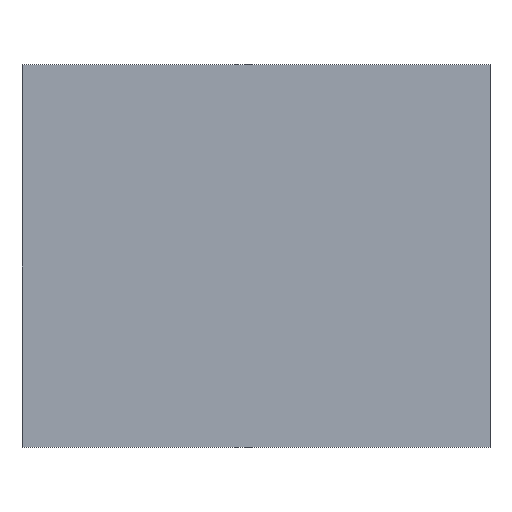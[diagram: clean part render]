
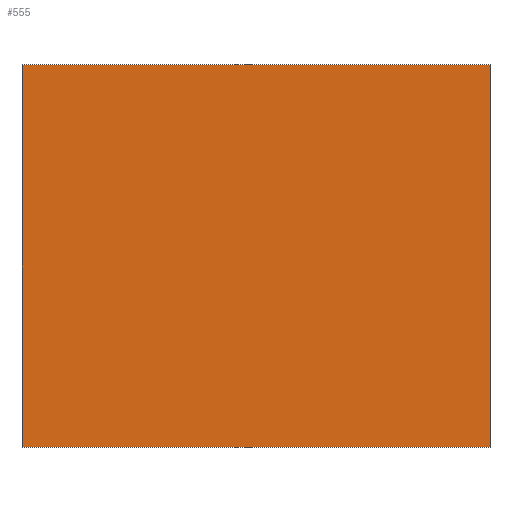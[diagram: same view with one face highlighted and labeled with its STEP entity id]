
A CAD part, top view. The second image highlights one B-rep face of the part: STEP entity #555.
In plain terms, the highlighted planar face has unit normal (0, 0, 1).
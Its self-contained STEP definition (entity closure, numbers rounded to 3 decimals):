
#126 = PLANE('',#127);
#127 = AXIS2_PLACEMENT_3D('',#128,#129,#130);
#128 = CARTESIAN_POINT('',(7.85,-2.11,-0.07));
#129 = DIRECTION('',(1.,0.,0.));
#130 = DIRECTION('',(0.,0.,1.));
#225 = VERTEX_POINT('',#226);
#226 = CARTESIAN_POINT('',(7.85,-2.11,0.));
#240 = PLANE('',#241);
#241 = AXIS2_PLACEMENT_3D('',#242,#243,#244);
#242 = CARTESIAN_POINT('',(7.85,-2.11,-0.07));
#243 = DIRECTION('',(0.,1.,0.));
#244 = DIRECTION('',(0.,0.,1.));
#275 = VERTEX_POINT('',#276);
#276 = CARTESIAN_POINT('',(7.85,-1.21,0.));
#290 = PLANE('',#291);
#291 = AXIS2_PLACEMENT_3D('',#292,#293,#294);
#292 = CARTESIAN_POINT('',(7.85,-1.21,-0.07));
#293 = DIRECTION('',(0.,1.,0.));
#294 = DIRECTION('',(0.,0.,1.));
#302 = EDGE_CURVE('',#225,#275,#303,.T.);
#303 = SURFACE_CURVE('',#304,(#308,#315),.PCURVE_S1.);
#304 = LINE('',#305,#306);
#305 = CARTESIAN_POINT('',(7.85,-2.11,0.));
#306 = VECTOR('',#307,1.);
#307 = DIRECTION('',(0.,1.,0.));
#308 = PCURVE('',#126,#309);
#309 = DEFINITIONAL_REPRESENTATION('',(#310),#314);
#310 = LINE('',#311,#312);
#311 = CARTESIAN_POINT('',(0.07,0.));
#312 = VECTOR('',#313,1.);
#313 = DIRECTION('',(0.,-1.));
#314 = ( GEOMETRIC_REPRESENTATION_CONTEXT(2) 
PARAMETRIC_REPRESENTATION_CONTEXT() REPRESENTATION_CONTEXT('2D SPACE',''
  ) );
#315 = PCURVE('',#316,#321);
#316 = PLANE('',#317);
#317 = AXIS2_PLACEMENT_3D('',#318,#319,#320);
#318 = CARTESIAN_POINT('',(7.85,-2.11,0.));
#319 = DIRECTION('',(0.,0.,1.));
#320 = DIRECTION('',(1.,0.,0.));
#321 = DEFINITIONAL_REPRESENTATION('',(#322),#326);
#322 = LINE('',#323,#324);
#323 = CARTESIAN_POINT('',(0.,0.));
#324 = VECTOR('',#325,1.);
#325 = DIRECTION('',(0.,1.));
#326 = ( GEOMETRIC_REPRESENTATION_CONTEXT(2) 
PARAMETRIC_REPRESENTATION_CONTEXT() REPRESENTATION_CONTEXT('2D SPACE',''
  ) );
#446 = PLANE('',#447);
#447 = AXIS2_PLACEMENT_3D('',#448,#449,#450);
#448 = CARTESIAN_POINT('',(8.95,-2.11,-0.07));
#449 = DIRECTION('',(1.,0.,0.));
#450 = DIRECTION('',(0.,0.,1.));
#512 = EDGE_CURVE('',#225,#513,#515,.T.);
#513 = VERTEX_POINT('',#514);
#514 = CARTESIAN_POINT('',(8.95,-2.11,0.));
#515 = SURFACE_CURVE('',#516,(#520,#527),.PCURVE_S1.);
#516 = LINE('',#517,#518);
#517 = CARTESIAN_POINT('',(7.85,-2.11,0.));
#518 = VECTOR('',#519,1.);
#519 = DIRECTION('',(1.,0.,0.));
#520 = PCURVE('',#240,#521);
#521 = DEFINITIONAL_REPRESENTATION('',(#522),#526);
#522 = LINE('',#523,#524);
#523 = CARTESIAN_POINT('',(0.07,0.));
#524 = VECTOR('',#525,1.);
#525 = DIRECTION('',(0.,1.));
#526 = ( GEOMETRIC_REPRESENTATION_CONTEXT(2) 
PARAMETRIC_REPRESENTATION_CONTEXT() REPRESENTATION_CONTEXT('2D SPACE',''
  ) );
#527 = PCURVE('',#316,#528);
#528 = DEFINITIONAL_REPRESENTATION('',(#529),#533);
#529 = LINE('',#530,#531);
#530 = CARTESIAN_POINT('',(0.,0.));
#531 = VECTOR('',#532,1.);
#532 = DIRECTION('',(1.,0.));
#533 = ( GEOMETRIC_REPRESENTATION_CONTEXT(2) 
PARAMETRIC_REPRESENTATION_CONTEXT() REPRESENTATION_CONTEXT('2D SPACE',''
  ) );
#555 = ADVANCED_FACE('',(#556),#316,.T.);
#556 = FACE_BOUND('',#557,.T.);
#557 = EDGE_LOOP('',(#558,#559,#560,#583));
#558 = ORIENTED_EDGE('',*,*,#302,.F.);
#559 = ORIENTED_EDGE('',*,*,#512,.T.);
#560 = ORIENTED_EDGE('',*,*,#561,.T.);
#561 = EDGE_CURVE('',#513,#562,#564,.T.);
#562 = VERTEX_POINT('',#563);
#563 = CARTESIAN_POINT('',(8.95,-1.21,0.));
#564 = SURFACE_CURVE('',#565,(#569,#576),.PCURVE_S1.);
#565 = LINE('',#566,#567);
#566 = CARTESIAN_POINT('',(8.95,-2.11,0.));
#567 = VECTOR('',#568,1.);
#568 = DIRECTION('',(0.,1.,0.));
#569 = PCURVE('',#316,#570);
#570 = DEFINITIONAL_REPRESENTATION('',(#571),#575);
#571 = LINE('',#572,#573);
#572 = CARTESIAN_POINT('',(1.1,0.));
#573 = VECTOR('',#574,1.);
#574 = DIRECTION('',(0.,1.));
#575 = ( GEOMETRIC_REPRESENTATION_CONTEXT(2) 
PARAMETRIC_REPRESENTATION_CONTEXT() REPRESENTATION_CONTEXT('2D SPACE',''
  ) );
#576 = PCURVE('',#446,#577);
#577 = DEFINITIONAL_REPRESENTATION('',(#578),#582);
#578 = LINE('',#579,#580);
#579 = CARTESIAN_POINT('',(0.07,0.));
#580 = VECTOR('',#581,1.);
#581 = DIRECTION('',(0.,-1.));
#582 = ( GEOMETRIC_REPRESENTATION_CONTEXT(2) 
PARAMETRIC_REPRESENTATION_CONTEXT() REPRESENTATION_CONTEXT('2D SPACE',''
  ) );
#583 = ORIENTED_EDGE('',*,*,#584,.F.);
#584 = EDGE_CURVE('',#275,#562,#585,.T.);
#585 = SURFACE_CURVE('',#586,(#590,#597),.PCURVE_S1.);
#586 = LINE('',#587,#588);
#587 = CARTESIAN_POINT('',(7.85,-1.21,0.));
#588 = VECTOR('',#589,1.);
#589 = DIRECTION('',(1.,0.,0.));
#590 = PCURVE('',#316,#591);
#591 = DEFINITIONAL_REPRESENTATION('',(#592),#596);
#592 = LINE('',#593,#594);
#593 = CARTESIAN_POINT('',(0.,0.9));
#594 = VECTOR('',#595,1.);
#595 = DIRECTION('',(1.,0.));
#596 = ( GEOMETRIC_REPRESENTATION_CONTEXT(2) 
PARAMETRIC_REPRESENTATION_CONTEXT() REPRESENTATION_CONTEXT('2D SPACE',''
  ) );
#597 = PCURVE('',#290,#598);
#598 = DEFINITIONAL_REPRESENTATION('',(#599),#603);
#599 = LINE('',#600,#601);
#600 = CARTESIAN_POINT('',(0.07,0.));
#601 = VECTOR('',#602,1.);
#602 = DIRECTION('',(0.,1.));
#603 = ( GEOMETRIC_REPRESENTATION_CONTEXT(2) 
PARAMETRIC_REPRESENTATION_CONTEXT() REPRESENTATION_CONTEXT('2D SPACE',''
  ) );
